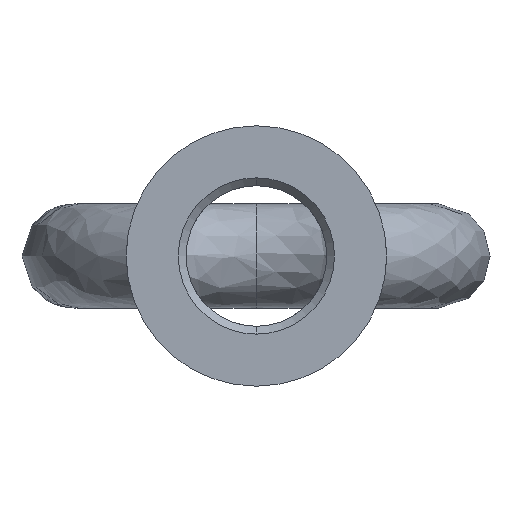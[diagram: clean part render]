
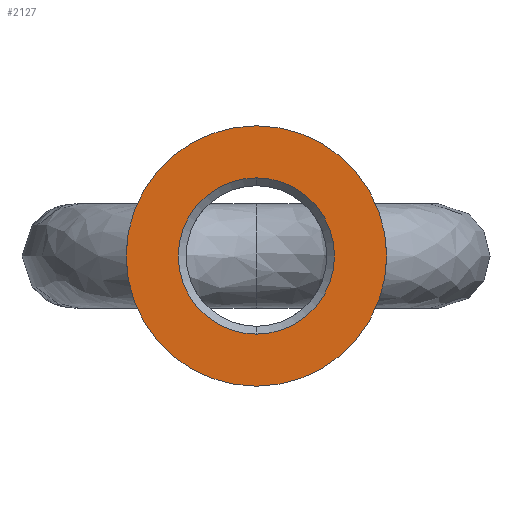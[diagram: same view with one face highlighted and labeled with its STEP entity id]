
A CAD part, front view. The second image highlights one B-rep face of the part: STEP entity #2127.
In plain terms, the highlighted planar face has unit normal (0, -1, 0).
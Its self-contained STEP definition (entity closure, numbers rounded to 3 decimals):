
#31 = DIRECTION ( 'NONE',  ( 0., 0., 1. ) ) ;
#40 = CIRCLE ( 'NONE', #1722, 15. ) ;
#108 = EDGE_CURVE ( 'NONE', #930, #319, #40, .T. ) ;
#123 = PLANE ( 'NONE',  #2350 ) ;
#194 = DIRECTION ( 'NONE',  ( 0., 0., -1. ) ) ;
#229 = EDGE_CURVE ( 'NONE', #2822, #2005, #1879, .T. ) ;
#319 = VERTEX_POINT ( 'NONE', #1189 ) ;
#334 = CARTESIAN_POINT ( 'NONE',  ( 0., 0., 0. ) ) ;
#468 = AXIS2_PLACEMENT_3D ( 'NONE', #2279, #1476, #31 ) ;
#558 = DIRECTION ( 'NONE',  ( 0., 0., 1. ) ) ;
#767 = EDGE_LOOP ( 'NONE', ( #822, #2068 ) ) ;
#822 = ORIENTED_EDGE ( 'NONE', *, *, #1404, .F. ) ;
#887 = FACE_OUTER_BOUND ( 'NONE', #767, .T. ) ;
#930 = VERTEX_POINT ( 'NONE', #1414 ) ;
#1010 = DIRECTION ( 'NONE',  ( 0., 0., -1. ) ) ;
#1025 = CARTESIAN_POINT ( 'NONE',  ( 0., 0., 0. ) ) ;
#1189 = CARTESIAN_POINT ( 'NONE',  ( 0., 0., -15. ) ) ;
#1193 = CARTESIAN_POINT ( 'NONE',  ( 0., 0., 0. ) ) ;
#1260 = CARTESIAN_POINT ( 'NONE',  ( 0., 0., -25. ) ) ;
#1404 = EDGE_CURVE ( 'NONE', #2005, #2822, #2874, .T. ) ;
#1414 = CARTESIAN_POINT ( 'NONE',  ( 0., 0., 15. ) ) ;
#1426 = ORIENTED_EDGE ( 'NONE', *, *, #108, .T. ) ;
#1476 = DIRECTION ( 'NONE',  ( 0., 1., 0. ) ) ;
#1645 = DIRECTION ( 'NONE',  ( 0., -1., 0. ) ) ;
#1722 = AXIS2_PLACEMENT_3D ( 'NONE', #1025, #2294, #1010 ) ;
#1804 = EDGE_LOOP ( 'NONE', ( #2311, #1426 ) ) ;
#1879 = CIRCLE ( 'NONE', #468, 25. ) ;
#1927 = AXIS2_PLACEMENT_3D ( 'NONE', #334, #2855, #558 ) ;
#2005 = VERTEX_POINT ( 'NONE', #1260 ) ;
#2068 = ORIENTED_EDGE ( 'NONE', *, *, #229, .F. ) ;
#2127 = ADVANCED_FACE ( 'NONE', ( #2634, #887 ), #123, .T. ) ;
#2191 = CIRCLE ( 'NONE', #2405, 15. ) ;
#2279 = CARTESIAN_POINT ( 'NONE',  ( 0., 0., 0. ) ) ;
#2294 = DIRECTION ( 'NONE',  ( 0., 1., 0. ) ) ;
#2311 = ORIENTED_EDGE ( 'NONE', *, *, #2814, .T. ) ;
#2350 = AXIS2_PLACEMENT_3D ( 'NONE', #3139, #1645, #2389 ) ;
#2389 = DIRECTION ( 'NONE',  ( 0., 0., -1. ) ) ;
#2405 = AXIS2_PLACEMENT_3D ( 'NONE', #1193, #2669, #194 ) ;
#2634 = FACE_BOUND ( 'NONE', #1804, .T. ) ;
#2669 = DIRECTION ( 'NONE',  ( 0., 1., 0. ) ) ;
#2685 = CARTESIAN_POINT ( 'NONE',  ( 0., 0., 25. ) ) ;
#2814 = EDGE_CURVE ( 'NONE', #319, #930, #2191, .T. ) ;
#2822 = VERTEX_POINT ( 'NONE', #2685 ) ;
#2855 = DIRECTION ( 'NONE',  ( 0., 1., 0. ) ) ;
#2874 = CIRCLE ( 'NONE', #1927, 25. ) ;
#3139 = CARTESIAN_POINT ( 'NONE',  ( 0., 0., 0. ) ) ;
